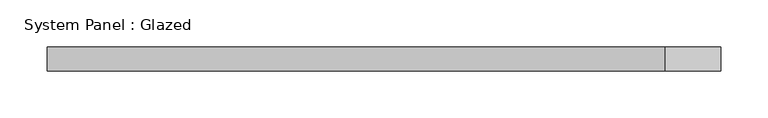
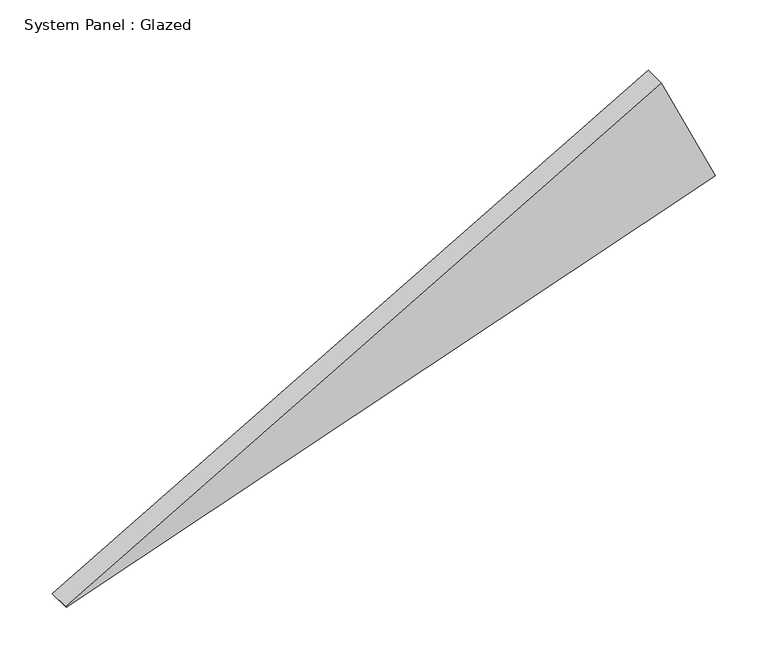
"""IFC4 building model written with IfcOpenShell, lengths in millimetres: plate geometry, System Panel : Glazed."""

from ifc_helpers import new_model, si_unit, frame, origin, place, context, project, spatial, polyline, outline, extrude, source, transform, mapped, element, save


def system_panel_glazed_dc99ea86(model_context):
    return source(origin(), model_context, "Body", "SweptSolid", [
        extrude(outline(polyline([(0.7690827, -357.3523902), (0.0, -356.9983334), (251.7727926, 357.3523902), (379.7558918, 298.4337746), (0.7690827, -357.3523902)])), frame((0.0, -44.45, 0.0), z_axis=(0.0, 1.0, 0.0), x_axis=(0.0, 0.0, 1.0)), (0.0, 0.0, 1.0), 25.4),
    ])


if __name__ == "__main__":
    model = new_model("IFC4")
    model_context = context("Model", 3, world=origin())
    ifc_project = project(units=[si_unit("LENGTHUNIT", "METRE", prefix="MILLI")], contexts=[model_context])
    site = spatial("IfcSite", under=ifc_project)
    building = spatial("IfcBuilding", under=site)
    placement = place(None, origin())
    system_panel_glazed_shape = system_panel_glazed_dc99ea86(model_context)
    element("IfcPlate", 1, ObjectType="System Panel : Glazed", at=placement, inside=building, context=model_context, shape_type="MappedRepresentation", body=[
        mapped(system_panel_glazed_shape, transform((0.0, 0.0, 0.0), x_axis=(1.0, 0.0, 0.0), y_axis=(0.0, 1.0, 0.0), z_axis=(0.0, 0.0, 1.0))),
    ])
    save(model, "model.ifc")
